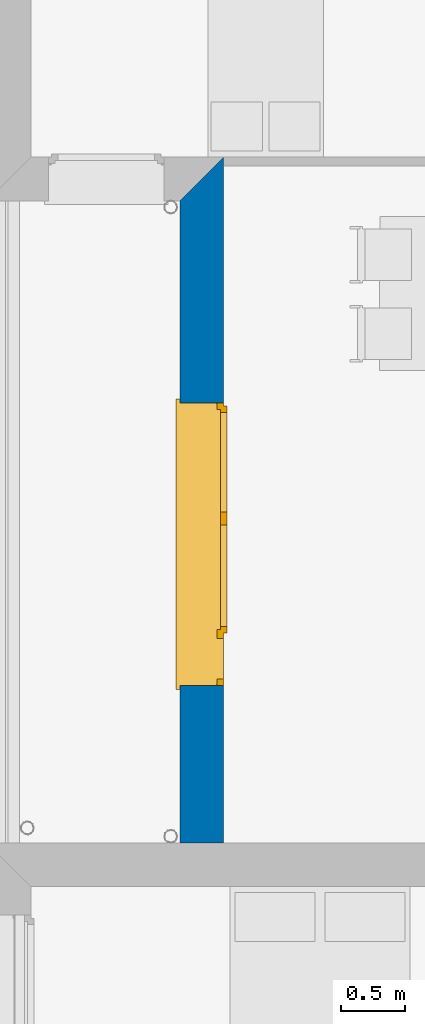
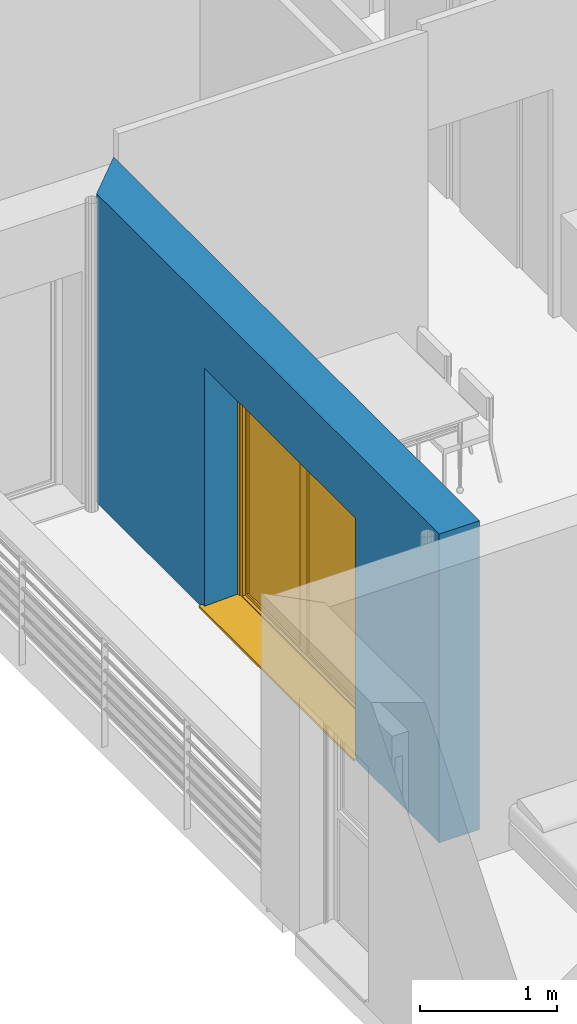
# One storey, part 35 of 171: 1 wall, 1 window, 1 opening.
"""IFC2X3 building model written with IfcOpenShell, lengths in millimetres."""

import ifcopenshell
import ifcopenshell.guid

model = None  # the IFC model being written
_history = None  # IfcOwnerHistory: only IFC2X3 demands one
_inside = {}  # id of a spatial element -> (the spatial element, [elements in it])
_under = {}  # id of a project, library or spatial element -> (it, [spatial elements below it])
_declared = {}  # id of a project -> (the project, [libraries it declares])
_typed = {}  # id of a type object -> (the type object, [elements of that type])
_made_of = {}  # id of a material, layer set ... -> (it, [elements and type objects made of it])


def new_model(schema):
    """Start an empty IFC model of exactly this schema.

    Asked for "IFC4X3", IfcOpenShell would pick the latest addendum, in which some entities
    have other attributes; the version numbers below select the first issue.
    IFC2X3 requires an IfcOwnerHistory on every rooted entity: one is made here for all.
    """
    global model, _history
    if schema == "IFC4X3":
        model = ifcopenshell.file(schema_version=(4, 3, 0, 0))
    else:
        model = ifcopenshell.file(schema=schema)
    _inside.clear()
    _under.clear()
    _declared.clear()
    _typed.clear()
    _made_of.clear()
    _history = None
    if model.schema == "IFC2X3":
        org = make("IfcOrganization", Name="unknown")
        user = make(
            "IfcPersonAndOrganization",
            ThePerson=make("IfcPerson", FamilyName="unknown"),
            TheOrganization=org,
        )
        app = make(
            "IfcApplication",
            ApplicationDeveloper=org,
            Version="unknown",
            ApplicationFullName="unknown",
            ApplicationIdentifier="unknown",
        )
        _history = make(
            "IfcOwnerHistory",
            OwningUser=user,
            OwningApplication=app,
            ChangeAction="ADDED",
            CreationDate=0,
        )
    return model


def make(cls, **values):
    """One entity of the class cls with the attributes given. An attribute that is None is left unset."""
    return model.create_entity(
        cls, **{name: value for name, value in values.items() if value is not None}
    )


def entity(cls, *values):
    """Any entity or typed value of the class cls, its attributes in the order of the schema. None: left unset."""
    e = model.create_entity(cls)
    for i, value in enumerate(values):
        if value is not None:
            e[i] = value
    return e


def rooted(cls, **values):
    """An entity with a GlobalId (a new one), such as an element, a storey or a relation."""
    return make(cls, GlobalId=ifcopenshell.guid.new(), OwnerHistory=_history, **values)


def si_unit(unit_type, name, prefix=None):
    """IfcSIUnit, for example si_unit("LENGTHUNIT", "METRE", prefix="MILLI")."""
    return make("IfcSIUnit", UnitType=unit_type, Prefix=prefix, Name=name)


def converted_unit(unit_type, name, factor, base, dimensions=None, offset=None):
    """IfcConversionBasedUnit, such as the inch: factor (a typed value) times the base unit."""
    return make(
        "IfcConversionBasedUnit"
        if offset is None
        else "IfcConversionBasedUnitWithOffset",
        ConversionOffset=offset,
        Dimensions=None
        if dimensions is None
        else entity("IfcDimensionalExponents", *dimensions),
        UnitType=unit_type,
        Name=name,
        ConversionFactor=make(
            "IfcMeasureWithUnit", ValueComponent=factor, UnitComponent=base
        ),
    )


def derived_unit(unit_type, elements):
    """IfcDerivedUnit: a product of units, each with its exponent."""
    return make(
        "IfcDerivedUnit",
        Elements=[
            make("IfcDerivedUnitElement", Unit=unit, Exponent=power)
            for unit, power in elements
        ],
        UnitType=unit_type,
    )


def money_unit(currency):
    """IfcMonetaryUnit."""
    return make("IfcMonetaryUnit", Currency=currency)


def assignment(units):
    """IfcUnitAssignment: the units of a project."""
    return None if units is None else make("IfcUnitAssignment", Units=units)


def point(xyz):
    """IfcCartesianPoint."""
    return None if xyz is None else make("IfcCartesianPoint", Coordinates=xyz)


def direction(xyz):
    """IfcDirection."""
    return None if xyz is None else make("IfcDirection", DirectionRatios=xyz)


def frame(location, z_axis=None, x_axis=None):
    """IfcAxis2Placement3D, a coordinate frame: its origin and axes. An axis left out is left unset."""
    return make(
        "IfcAxis2Placement3D",
        Location=point(location),
        Axis=direction(z_axis),
        RefDirection=direction(x_axis),
    )


def origin_with_axes():
    """The frame at (0, 0, 0) with the z axis (0, 0, 1) and the x axis (1, 0, 0) written out."""
    return frame((0.0, 0.0, 0.0), z_axis=(0.0, 0.0, 1.0), x_axis=(1.0, 0.0, 0.0))


def place(relative_to, where):
    """IfcLocalPlacement: puts the frame where relative to a parent placement (None: the world)."""
    return make(
        "IfcLocalPlacement", PlacementRelTo=relative_to, RelativePlacement=where
    )


def context(
    kind, dimensions, precision=None, world=None, true_north=None, identifier=None
):
    """IfcGeometricRepresentationContext, for example the 3D "Model" context."""
    return make(
        "IfcGeometricRepresentationContext",
        ContextIdentifier=identifier,
        ContextType=kind,
        CoordinateSpaceDimension=dimensions,
        Precision=precision,
        WorldCoordinateSystem=world,
        TrueNorth=true_north,
    )


def subcontext(parent, identifier, kind, view, scale=None):
    """IfcGeometricRepresentationSubContext, for example "Body" below "Model"."""
    return make(
        "IfcGeometricRepresentationSubContext",
        ContextIdentifier=identifier,
        ContextType=kind,
        ParentContext=parent,
        TargetScale=scale,
        TargetView=view,
    )


def project(units=None, contexts=None):
    """IfcProject with its units and contexts."""
    return rooted(
        "IfcProject",
        Name="project",
        RepresentationContexts=contexts,
        UnitsInContext=assignment(units),
    )


def spatial(cls, under=None, at=None, **own):
    """A site, building, storey or space (cls), placed at a placement, below another one or the project."""
    s = rooted(cls, ObjectPlacement=at, **own)
    if under is not None:
        _under.setdefault(under.id(), (under, []))[1].append(s)
    return s


def polyline(points):
    """IfcPolyline through the points."""
    return make("IfcPolyline", Points=[point(p) for p in points])


def outline(outer, holes=None, kind="AREA"):
    """IfcArbitraryClosedProfileDef: a profile drawn as a closed curve; with holes, ...WithVoids."""
    if holes is None:
        return make("IfcArbitraryClosedProfileDef", ProfileType=kind, OuterCurve=outer)
    return make(
        "IfcArbitraryProfileDefWithVoids",
        ProfileType=kind,
        OuterCurve=outer,
        InnerCurves=holes,
    )


def extrude(swept, where, along, depth):
    """IfcExtrudedAreaSolid: the profile swept, set in the frame where, extruded along a direction by depth."""
    return make(
        "IfcExtrudedAreaSolid",
        SweptArea=swept,
        Position=where,
        ExtrudedDirection=direction(along),
        Depth=depth,
    )


def faces_of(points, faces, orient=None, outer=None):
    """IfcFace entities. A face is a list of loops; a loop is a list of indices into points, from 0.

    orient and outer hold one flag for each loop. By default every Orientation is true, the
    first loop of a face is its IfcFaceOuterBound and the others are IfcFaceBound.
    """
    made = []
    for i, loops in enumerate(faces):
        bounds = []
        for j, loop in enumerate(loops):
            is_outer = j == 0 if outer is None else outer[i][j]
            bounds.append(
                make(
                    "IfcFaceOuterBound" if is_outer else "IfcFaceBound",
                    Bound=make("IfcPolyLoop", Polygon=[points[k] for k in loop]),
                    Orientation=True if orient is None else orient[i][j],
                )
            )
        made.append(make("IfcFace", Bounds=bounds))
    return made


def open_shell(faces, orient=None, outer=None):
    """The faces of one IfcOpenShell. surface_model builds it on its shared points."""
    return ("IfcOpenShell", faces, orient, outer)


def faceted_brep(points, faces, orient=None, outer=None, voids=None):
    """IfcFacetedBrep: a solid bounded by flat faces; with voids (closed shells), ...WithVoids."""
    shared = [point(p) for p in points]
    hull = make("IfcClosedShell", CfsFaces=faces_of(shared, faces, orient, outer))
    if voids is None:
        return make("IfcFacetedBrep", Outer=hull)
    return make(
        "IfcFacetedBrepWithVoids",
        Outer=hull,
        Voids=[
            make(cls, CfsFaces=faces_of(shared, fs, o, b)) for cls, fs, o, b in voids
        ],
    )


def surface_model(cls, points, shells):
    """IfcFaceBasedSurfaceModel or IfcShellBasedSurfaceModel (cls): surfaces that need not close."""
    shared = [point(p) for p in points]
    made = [make(c, CfsFaces=faces_of(shared, fs, o, b)) for c, fs, o, b in shells]
    if cls == "IfcFaceBasedSurfaceModel":
        return make(cls, FbsmFaces=made)
    return make(cls, SbsmBoundary=made)


def shape(context_of_items, identifier, shape_type, items):
    """IfcShapeRepresentation: the items that make up one representation, for example the "Body"."""
    return make(
        "IfcShapeRepresentation",
        ContextOfItems=context_of_items,
        RepresentationIdentifier=identifier,
        RepresentationType=shape_type,
        Items=items,
    )


def source(mapping_origin, context_of_items, identifier, shape_type, items):
    """IfcRepresentationMap: a shape defined once, which mapped items show again and again."""
    return make(
        "IfcRepresentationMap",
        MappingOrigin=mapping_origin,
        MappedRepresentation=shape(context_of_items, identifier, shape_type, items),
    )


def transform(
    local_origin,
    x_axis=None,
    y_axis=None,
    z_axis=None,
    scale=None,
    scale2=None,
    scale3=None,
    uniform=True,
):
    """IfcCartesianTransformationOperator3D, or its non-uniform kind. x_axis, y_axis, z_axis: its Axis1, 2, 3."""
    if uniform:
        return make(
            "IfcCartesianTransformationOperator3D",
            Axis1=direction(x_axis),
            Axis2=direction(y_axis),
            LocalOrigin=point(local_origin),
            Scale=scale,
            Axis3=direction(z_axis),
        )
    return make(
        "IfcCartesianTransformationOperator3DnonUniform",
        Axis1=direction(x_axis),
        Axis2=direction(y_axis),
        LocalOrigin=point(local_origin),
        Scale=scale,
        Axis3=direction(z_axis),
        Scale2=scale2,
        Scale3=scale3,
    )


def mapped(mapping_source, mapping_target):
    """IfcMappedItem: shows the shape of a source again, moved by a transform."""
    return make(
        "IfcMappedItem", MappingSource=mapping_source, MappingTarget=mapping_target
    )


def material(Name=None, Category=None):
    """IfcMaterial."""
    return make("IfcMaterial", Name=Name, Category=Category)


def layer(
    of_material, thickness, ventilated=None, Name=None, Category=None, Priority=None
):
    """IfcMaterialLayer: one layer of a wall or slab, of a material (None: an air gap)."""
    return make(
        "IfcMaterialLayer",
        Material=of_material,
        LayerThickness=thickness,
        IsVentilated=ventilated,
        Name=Name,
        Category=Category,
        Priority=Priority,
    )


def layer_set(layers, Name=None):
    """IfcMaterialLayerSet."""
    return make("IfcMaterialLayerSet", MaterialLayers=layers, LayerSetName=Name)


def layer_usage(for_layer_set, set_direction, sense, offset, extent=None):
    """IfcMaterialLayerSetUsage: how a layer set lies in its element."""
    return make(
        "IfcMaterialLayerSetUsage",
        ForLayerSet=for_layer_set,
        LayerSetDirection=set_direction,
        DirectionSense=sense,
        OffsetFromReferenceLine=offset,
        ReferenceExtent=extent,
    )


def made_of(thing, what):
    """Note that an element or type object is made of a material, layer set ...; save() writes the relation."""
    if what is not None:
        _made_of.setdefault(what.id(), (what, []))[1].append(thing)
    return thing


def type_object(cls, material=None, **own):
    """A type object (cls), such as IfcWallType, which elements share."""
    return made_of(rooted(cls, **own), material)


def element(
    cls,
    number,
    at=None,
    inside=None,
    cuts=None,
    type_object=None,
    material=None,
    context=None,
    identifier="Body",
    shape_type=None,
    held_by="IfcProductDefinitionShape",
    body=None,
    shapes=None,
    **own,
):
    """One element of the class cls, such as IfcWall. Its Tag is "e" and its number.

    at: its placement. inside: the storey or other place that contains it. cuts: it is an
    opening in that element (IfcRelVoidsElement). A single representation is given by context,
    identifier, shape_type and body (its items); several are given by shapes. held_by: the class
    of the entity that holds the representations. save() writes the other relations.
    """
    e = rooted(cls, Tag="e%d" % number, ObjectPlacement=at, **own)
    if body is not None:
        shapes = [shape(context, identifier, shape_type, body)]
    if shapes is not None:
        e.Representation = make(held_by, Representations=shapes)
    if inside is not None:
        _inside.setdefault(inside.id(), (inside, []))[1].append(e)
    if cuts is not None:
        rooted(
            "IfcRelVoidsElement", RelatingBuildingElement=cuts, RelatedOpeningElement=e
        )
    if type_object is not None:
        _typed.setdefault(type_object.id(), (type_object, []))[1].append(e)
    return made_of(e, material)


def fill(opening, filler):
    """IfcRelFillsElement: the door or window that sits in an opening."""
    return rooted(
        "IfcRelFillsElement",
        RelatingOpeningElement=opening,
        RelatedBuildingElement=filler,
    )


def aggregate(whole, parts):
    """IfcRelAggregates: a whole, such as a stair, and the parts it consists of."""
    return rooted("IfcRelAggregates", RelatingObject=whole, RelatedObjects=parts)


def save(model, path):
    """Write the relations noted so far, then the file.

    IfcRelAggregates (storeys below a building ...), IfcRelContainedInSpatialStructure (elements
    in a storey), IfcRelDefinesByType, IfcRelAssociatesMaterial and IfcRelDeclares: one each for
    every whole, place, type object, material and project.
    """
    for whole, parts in _under.values():
        aggregate(whole, parts)
    for where, things in _inside.values():
        rooted(
            "IfcRelContainedInSpatialStructure",
            RelatedElements=things,
            RelatingStructure=where,
        )
    for kind, things in _typed.values():
        rooted("IfcRelDefinesByType", RelatedObjects=things, RelatingType=kind)
    for what, things in _made_of.values():
        rooted("IfcRelAssociatesMaterial", RelatedObjects=things, RelatingMaterial=what)
    for by, libraries in _declared.values():
        rooted("IfcRelDeclares", RelatingContext=by, RelatedDefinitions=libraries)
    model.write(path)


model = new_model("IFC2X3")

# Units and contexts
model_context = context("Model", 3, precision=0.01, world=origin_with_axes(), true_north=direction((0.0, 1.0)))
body_context = subcontext(model_context, "Body", "Model", "MODEL_VIEW")
ifc_project = project(units=[si_unit("LENGTHUNIT", "METRE", prefix="MILLI"), si_unit("AREAUNIT", "SQUARE_METRE"), si_unit("VOLUMEUNIT", "CUBIC_METRE"), converted_unit("PLANEANGLEUNIT", "DEGREE", entity("IfcPlaneAngleMeasure", 0.0174532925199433), si_unit("PLANEANGLEUNIT", "RADIAN"), dimensions=[0, 0, 0, 0, 0, 0, 0]), money_unit("USD"), converted_unit("TIMEUNIT", "Year", entity("IfcTimeMeasure", 31557600.0), si_unit("TIMEUNIT", "SECOND"), dimensions=[0, 0, 1, 0, 0, 0, 0]), si_unit("MASSUNIT", "GRAM", prefix="KILO"), si_unit("THERMODYNAMICTEMPERATUREUNIT", "DEGREE_CELSIUS"), si_unit("LUMINOUSINTENSITYUNIT", "LUMEN"), si_unit("ENERGYUNIT", "JOULE", prefix="MEGA"), derived_unit("THERMALCONDUCTANCEUNIT", [(si_unit("POWERUNIT", "WATT"), 1), (si_unit("LENGTHUNIT", "METRE"), -1), (si_unit("THERMODYNAMICTEMPERATUREUNIT", "KELVIN"), -1)]), derived_unit("SPECIFICHEATCAPACITYUNIT", [(si_unit("ENERGYUNIT", "JOULE"), 1), (si_unit("MASSUNIT", "GRAM", prefix="KILO"), -1), (si_unit("THERMODYNAMICTEMPERATUREUNIT", "KELVIN"), -1)]), derived_unit("MASSDENSITYUNIT", [(si_unit("MASSUNIT", "GRAM", prefix="KILO"), 1), (si_unit("VOLUMEUNIT", "CUBIC_METRE"), -1)])], contexts=[model_context])

# Site, building, storey
site_placement = place(None, origin_with_axes())
site = spatial("IfcSite", under=ifc_project, at=site_placement, Name="Site", CompositionType="ELEMENT")
building_placement = place(site_placement, origin_with_axes())
building = spatial("IfcBuilding", under=site, at=building_placement, Name="Bâtiment", CompositionType="ELEMENT")
storey_placement = place(building_placement, frame((0.0, 0.0, 3000.0), z_axis=(0.0, 0.0, 1.0), x_axis=(1.0, 0.0, 0.0)))
storey = spatial("IfcBuildingStorey", under=building, at=storey_placement, Name="rdc", CompositionType="ELEMENT", Elevation=3000.0)

# Wall, opening, window
ifc_material_1 = material(Name="Parpaing 312445824")
ifc_layer_1 = layer(ifc_material_1, 180.0, ventilated="UNKNOWN")
ifc_material_2 = material(Name="Isolant styromousse 301821074")
ifc_layer_2 = layer(ifc_material_2, 160.0, ventilated="UNKNOWN")
ifc_layer_set = layer_set([ifc_layer_1, ifc_layer_2], Name="isol int 18+16 0018356637")
ifc_layer_usage = layer_usage(ifc_layer_set, "AXIS2", "POSITIVE", 0.0)
wall_type = type_object("IfcWallType", Name="isol int 18+16 0018356637 340", PredefinedType="NOTDEFINED")
wall_placement = place(storey_placement, frame((2218134.318432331, -639016.8076992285, 0.0), z_axis=(0.0, 0.0, 1.0), x_axis=(-1.454543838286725e-05, -0.9999999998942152, 0.0)))
wall = element("IfcWallStandardCase", 1, at=wall_placement, inside=storey, type_object=wall_type, material=ifc_layer_usage, Name="Mur-143", context=body_context, shape_type="SweptSolid", body=[
    extrude(outline(polyline([(0.0, 0.0), (4999.568805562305, 0.0), (4999.563855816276, 339.9999999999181), (-340.0049454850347, 340.0000000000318), (0.0, 0.0)])), origin_with_axes(), (0.0, 0.0, 1.0), 2750.0),
])
opening_placement = place(wall_placement, frame((2673.994690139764, 0.0, 0.0), z_axis=(0.0, 0.0, 1.0), x_axis=(1.0, 0.0, 0.0)))
opening = element("IfcOpeningElement", 2, at=opening_placement, cuts=wall, Name="Fen-133", context=body_context, shape_type="Brep", body=[
    faceted_brep([(-1100.000000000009, 289.9999999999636, 2150.0), (-1100.000000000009, 341.0727209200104, 2150.0), (-1100.000000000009, 341.0727209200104, 0.0), (-1100.000000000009, 289.9999999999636, 0.0), (-1100.000000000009, 279.9999999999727, 2150.0), (-1100.000000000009, 279.9999999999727, 2400.0), (-1100.000000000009, 530.0000000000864, 2400.0), (-1100.000000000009, 530.0000000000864, 2150.0), (1099.99999999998, 341.0727209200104, 2150.0), (1099.99999999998, 341.0727209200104, 0.0), (1099.99999999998, 290.0000000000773, 0.0), (1099.999999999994, -1.072720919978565, 0.0), (-1099.999999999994, -1.072720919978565, 0.0), (-1099.999999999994, -1.072720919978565, 2150.0), (1099.999999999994, 279.9999999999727, 2150.0), (1099.999999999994, 279.9999999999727, 2400.0), (1099.999999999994, 529.9999999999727, 2400.0), (1099.999999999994, 529.9999999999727, 2150.0), (1099.99999999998, 290.0000000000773, 2150.0), (1099.999999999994, -1.072720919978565, 2150.0)], [[[0, 1, 2, 3]], [[1, 0, 4, 5, 6, 7]], [[1, 8, 9, 2]], [[10, 11, 12, 3, 2, 9]], [[4, 0, 3, 12, 13]], [[4, 14, 15, 5]], [[15, 16, 6, 5]], [[16, 17, 7, 6]], [[8, 1, 7, 17]], [[8, 18, 10, 9]], [[18, 14, 19, 11, 10]], [[13, 12, 11, 19]], [[14, 4, 13, 19]], [[18, 8, 17, 16, 15, 14]]]),
])
window_style = type_object("IfcWindowStyle", Name="Fenêtre châssis double variable 27", ConstructionType="NOTDEFINED", OperationType="TRIPLE_PANEL_VERTICAL", ParameterTakesPrecedence=False, Sizeable=False)
shared_shape = source(origin_with_axes(), body_context, "Body", "SurfaceModel", [
    surface_model("IfcShellBasedSurfaceModel", [(1100.0, -51.0, 40.00000000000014), (1100.0, -51.0, 50.00000000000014), (-1100.0, -51.0, 50.0), (-1100.0, -51.0, 40.0), (1130.0, -369.9999999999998, 28.96551724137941), (1130.0, -339.9999999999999, 30.00324289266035), (1100.0, -339.9999999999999, 30.00324289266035), (-1100.0, -339.9999999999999, 30.00324289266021), (-1130.0, -339.9999999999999, 30.00324289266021), (-1130.0, -369.9999999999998, 28.96551724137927), (1130.0, -369.9999999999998, 8.965517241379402), (-1130.0, -369.9999999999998, 8.965517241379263), (1130.0, -359.9999999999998, 18.9655172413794), (-1130.0, -359.9999999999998, 18.96551724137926)], [open_shell([[[0, 1, 2, 3]], [[4, 5, 6, 0, 3, 7, 8, 9]], [[10, 4, 9, 11]], [[12, 10, 11, 13]]])]),
    faceted_brep([(-1100.0, -60.0, 2400.0), (-1097.0, -60.0, 2400.0), (-1097.0, 189.9999999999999, 2400.0), (-1100.0, 189.9999999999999, 2400.0), (-1100.0, -60.0, 2150.0), (-1097.0, -60.0, 2150.0), (-1097.0, 189.9999999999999, 2150.0), (-1100.0, 189.9999999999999, 2150.0)], [[[0, 1, 2, 3]], [[4, 5, 1, 0]], [[1, 5, 6, 2]], [[3, 2, 6, 7]], [[0, 3, 7, 4]], [[7, 6, 5, 4]]]),
    faceted_brep([(1097.0, -59.99999999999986, 2400.0), (1100.0, -59.99999999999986, 2400.0), (1100.0, 190.0000000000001, 2400.0), (1097.0, 190.0000000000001, 2400.0), (1097.0, -59.99999999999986, 2150.0), (1100.0, -59.99999999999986, 2150.0), (1100.0, 190.0000000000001, 2150.0), (1097.0, 190.0000000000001, 2150.0)], [[[0, 1, 2, 3]], [[4, 5, 1, 0]], [[1, 5, 6, 2]], [[3, 2, 6, 7]], [[0, 3, 7, 4]], [[7, 6, 5, 4]]]),
    faceted_brep([(-1097.0, -59.99999999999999, 2150.0), (1097.0, -59.99999999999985, 2150.0), (1097.0, -59.99999999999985, 2400.0), (-1097.0, -59.99999999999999, 2400.0), (-1097.0, -56.99999999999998, 2150.0), (1097.0, -56.99999999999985, 2150.0), (1097.0, -56.99999999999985, 2397.0), (1097.0, 187.0000000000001, 2397.0), (1097.0, 187.0000000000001, 2153.0), (1097.0, -37.99999999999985, 2153.0), (1097.0, -37.99999999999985, 2150.0), (1097.0, 190.0000000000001, 2150.0), (1097.0, 190.0000000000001, 2400.0), (-1097.0, 189.9999999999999, 2400.0), (-1097.0, 189.9999999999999, 2150.0), (-1097.0, -37.99999999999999, 2150.0), (-1097.0, -37.99999999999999, 2153.0), (-1097.0, 187.0, 2153.0), (-1097.0, 187.0, 2397.0), (-1097.0, -56.99999999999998, 2397.0)], [[[0, 1, 2, 3]], [[4, 5, 1, 0]], [[1, 5, 6, 7, 8, 9, 10, 11, 12, 2]], [[3, 2, 12, 13]], [[0, 3, 13, 14, 15, 16, 17, 18, 19, 4]], [[19, 6, 5, 4]], [[18, 7, 6, 19]], [[17, 8, 7, 18]], [[16, 9, 8, 17]], [[15, 10, 9, 16]], [[14, 11, 10, 15]], [[13, 12, 11, 14]]]),
    faceted_brep([(-1094.0, -40.37442957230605, 2256.419644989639), (-1094.0, -41.99999999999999, 2275.0), (-1094.0, -40.37442957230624, 2293.580355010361), (-1094.0, -35.54711042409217, 2311.596155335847), (-1094.0, -27.66471820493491, 2328.5), (-1094.0, -16.96675541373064, 2343.77827423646), (-1094.0, -3.778274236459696, 2356.96675541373), (-1094.0, 11.5, 2367.664718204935), (-1094.0, 28.40384466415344, 2375.547110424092), (-1094.0, 46.41964498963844, 2380.374429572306), (-1094.0, 64.99999999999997, 2382.0), (-1094.0, 83.58035501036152, 2380.374429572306), (-1094.0, 101.5961553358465, 2375.547110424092), (-1094.0, 118.4999999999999, 2367.664718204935), (-1094.0, 133.7782742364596, 2356.96675541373), (-1094.0, 146.9667554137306, 2343.77827423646), (-1094.0, 157.6647182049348, 2328.5), (-1094.0, 165.5471104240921, 2311.596155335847), (-1094.0, 170.3744295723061, 2293.580355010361), (-1094.0, 171.9999999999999, 2275.0), (-1094.0, 170.3744295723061, 2256.419644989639), (-1094.0, 165.5471104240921, 2238.403844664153), (-1094.0, 157.6647182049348, 2221.5), (-1094.0, 146.9667554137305, 2206.22172576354), (-1094.0, 133.7782742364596, 2193.033244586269), (-1094.0, 118.4999999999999, 2182.335281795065), (-1094.0, 101.5961553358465, 2174.452889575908), (-1094.0, 83.58035501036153, 2169.625570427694), (-1094.0, 65.0, 2168.0), (-1094.0, 46.41964498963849, 2169.625570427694), (-1094.0, 28.40384466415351, 2174.452889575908), (-1094.0, 11.5000000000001, 2182.335281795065), (-1094.0, -3.778274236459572, 2193.033244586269), (-1094.0, -16.96675541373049, 2206.22172576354), (-1094.0, -27.66471820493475, 2221.5), (-1094.0, -35.54711042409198, 2238.403844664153), (1094.0, -40.37442957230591, 2256.419644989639), (1094.0, -41.99999999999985, 2275.0), (1094.0, -40.3744295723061, 2293.580355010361), (1094.0, -35.54711042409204, 2311.596155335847), (1094.0, -27.66471820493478, 2328.5), (1094.0, -16.9667554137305, 2343.77827423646), (1094.0, -3.778274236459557, 2356.96675541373), (1094.0, 11.50000000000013, 2367.664718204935), (1094.0, 28.40384466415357, 2375.547110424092), (1094.0, 46.41964498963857, 2380.374429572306), (1094.0, 65.00000000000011, 2382.0), (1094.0, 83.58035501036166, 2380.374429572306), (1094.0, 101.5961553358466, 2375.547110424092), (1094.0, 118.5000000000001, 2367.664718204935), (1094.0, 133.7782742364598, 2356.96675541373), (1094.0, 146.9667554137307, 2343.77827423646), (1094.0, 157.664718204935, 2328.5), (1094.0, 165.5471104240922, 2311.596155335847), (1094.0, 170.3744295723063, 2293.580355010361), (1094.0, 172.0, 2275.0), (1094.0, 170.3744295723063, 2256.419644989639), (1094.0, 165.5471104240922, 2238.403844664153), (1094.0, 157.6647182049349, 2221.5), (1094.0, 146.9667554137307, 2206.22172576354), (1094.0, 133.7782742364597, 2193.033244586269), (1094.0, 118.5000000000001, 2182.335281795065), (1094.0, 101.5961553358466, 2174.452889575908), (1094.0, 83.58035501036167, 2169.625570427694), (1094.0, 65.00000000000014, 2168.0), (1094.0, 46.41964498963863, 2169.625570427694), (1094.0, 28.40384466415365, 2174.452889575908), (1094.0, 11.50000000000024, 2182.335281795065), (1094.0, -3.778274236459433, 2193.033244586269), (1094.0, -16.96675541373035, 2206.22172576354), (1094.0, -27.66471820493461, 2221.5), (1094.0, -35.54711042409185, 2238.403844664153)], [[[0, 1, 2, 3, 4, 5, 6, 7, 8, 9, 10, 11, 12, 13, 14, 15, 16, 17, 18, 19, 20, 21, 22, 23, 24, 25, 26, 27, 28, 29, 30, 31, 32, 33, 34, 35]], [[0, 36, 37, 1]], [[1, 37, 38, 2]], [[2, 38, 39, 3]], [[3, 39, 40, 4]], [[4, 40, 41, 5]], [[5, 41, 42, 6]], [[6, 42, 43, 7]], [[7, 43, 44, 8]], [[8, 44, 45, 9]], [[9, 45, 46, 10]], [[10, 46, 47, 11]], [[11, 47, 48, 12]], [[12, 48, 49, 13]], [[13, 49, 50, 14]], [[14, 50, 51, 15]], [[15, 51, 52, 16]], [[16, 52, 53, 17]], [[17, 53, 54, 18]], [[18, 54, 55, 19]], [[19, 55, 56, 20]], [[20, 56, 57, 21]], [[21, 57, 58, 22]], [[22, 58, 59, 23]], [[23, 59, 60, 24]], [[24, 60, 61, 25]], [[25, 61, 62, 26]], [[26, 62, 63, 27]], [[27, 63, 64, 28]], [[28, 64, 65, 29]], [[29, 65, 66, 30]], [[30, 66, 67, 31]], [[31, 67, 68, 32]], [[32, 68, 69, 33]], [[33, 69, 70, 34]], [[34, 70, 71, 35]], [[35, 71, 36, 0]], [[36, 71, 70, 69, 68, 67, 66, 65, 64, 63, 62, 61, 60, 59, 58, 57, 56, 55, 54, 53, 52, 51, 50, 49, 48, 47, 46, 45, 44, 43, 42, 41, 40, 39, 38, 37]]]),
    faceted_brep([(1100.0, -34.99999999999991, 30.0), (1100.0, -34.99999999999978, 2150.0), (1100.0, -59.99999999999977, 2150.0), (1100.0, -59.99999999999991, 30.0), (1075.0, -34.99999999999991, 30.0), (1075.0, -34.99999999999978, 2150.0), (1075.0, -37.99999999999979, 2150.0), (1097.0, -37.99999999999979, 2150.0), (1097.0, -56.99999999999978, 2150.0), (1075.0, -56.99999999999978, 2150.0), (1075.0, -59.99999999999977, 2150.0), (1075.0, -59.99999999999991, 30.0), (1075.0, -56.99999999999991, 30.0), (1097.0, -56.99999999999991, 30.0), (1097.0, -37.99999999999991, 30.0), (1075.0, -37.99999999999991, 30.0)], [[[0, 1, 2, 3]], [[4, 5, 1, 0]], [[1, 5, 6, 7, 8, 9, 10, 2]], [[3, 2, 10, 11]], [[0, 3, 11, 12, 13, 14, 15, 4]], [[15, 6, 5, 4]], [[14, 7, 6, 15]], [[13, 8, 7, 14]], [[12, 9, 8, 13]], [[11, 10, 9, 12]]]),
    faceted_brep([(-1100.0, -34.99999999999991, 30.0), (-1100.0, -59.99999999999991, 30.0), (-1100.0, -59.99999999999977, 2150.0), (-1100.0, -34.99999999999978, 2150.0), (-1075.0, -34.99999999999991, 30.0), (-1075.0, -37.99999999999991, 30.0), (-1097.0, -37.99999999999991, 30.0), (-1097.0, -56.99999999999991, 30.0), (-1075.0, -56.99999999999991, 30.0), (-1075.0, -59.99999999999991, 30.0), (-1075.0, -59.99999999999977, 2150.0), (-1075.0, -56.99999999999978, 2150.0), (-1097.0, -56.99999999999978, 2150.0), (-1097.0, -37.99999999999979, 2150.0), (-1075.0, -37.99999999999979, 2150.0), (-1075.0, -34.99999999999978, 2150.0)], [[[0, 1, 2, 3]], [[0, 4, 5, 6, 7, 8, 9, 1]], [[1, 9, 10, 2]], [[3, 2, 10, 11, 12, 13, 14, 15]], [[4, 0, 3, 15]], [[5, 4, 15, 14]], [[6, 5, 14, 13]], [[7, 6, 13, 12]], [[8, 7, 12, 11]], [[9, 8, 11, 10]]]),
    faceted_brep([(1097.0, -46.6666666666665, 2275.0), (1097.0, -46.6666666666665, 2266.666666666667), (-1097.0, -46.66666666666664, 2266.666666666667), (-1097.0, -46.66666666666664, 2275.0), (1097.0, -51.66666666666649, 2275.0), (1097.0, -51.66666666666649, 2266.666666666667), (1097.0, -49.99999999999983, 2250.0), (1097.0, -44.99999999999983, 2250.0), (-1097.0, -44.99999999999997, 2250.0), (-1097.0, -49.99999999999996, 2250.0), (-1097.0, -51.66666666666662, 2266.666666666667), (-1097.0, -51.66666666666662, 2275.0)], [[[0, 1, 2, 3]], [[4, 5, 6, 7, 1, 0]], [[2, 1, 7, 8]], [[3, 2, 8, 9, 10, 11]], [[3, 11, 4, 0]], [[10, 5, 4, 11]], [[9, 6, 5, 10]], [[8, 7, 6, 9]]]),
    faceted_brep([(-1097.0, -44.99999999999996, 2250.0), (1097.0, -44.99999999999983, 2250.0), (1097.0, -46.6666666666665, 2233.333333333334), (-1097.0, -46.66666666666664, 2233.333333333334), (-1097.0, -49.99999999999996, 2250.0), (1097.0, -49.99999999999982, 2250.0), (1097.0, -51.66666666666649, 2233.333333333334), (1097.0, -51.66666666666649, 2216.666666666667), (1097.0, -49.99999999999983, 2200.0), (1097.0, -44.99999999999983, 2200.0), (1097.0, -46.6666666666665, 2216.666666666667), (-1097.0, -46.66666666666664, 2216.666666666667), (-1097.0, -44.99999999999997, 2200.0), (-1097.0, -49.99999999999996, 2200.0), (-1097.0, -51.66666666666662, 2216.666666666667), (-1097.0, -51.66666666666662, 2233.333333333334)], [[[0, 1, 2, 3]], [[4, 5, 1, 0]], [[1, 5, 6, 7, 8, 9, 10, 2]], [[3, 2, 10, 11]], [[0, 3, 11, 12, 13, 14, 15, 4]], [[15, 6, 5, 4]], [[14, 7, 6, 15]], [[13, 8, 7, 14]], [[12, 9, 8, 13]], [[11, 10, 9, 12]]]),
    faceted_brep([(-1097.0, -44.99999999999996, 2200.0), (1097.0, -44.99999999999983, 2200.0), (1097.0, -46.6666666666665, 2183.333333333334), (-1097.0, -46.66666666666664, 2183.333333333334), (-1097.0, -49.99999999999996, 2200.0), (1097.0, -49.99999999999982, 2200.0), (1097.0, -51.66666666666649, 2183.333333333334), (1097.0, -51.66666666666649, 2166.666666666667), (1097.0, -49.99999999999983, 2150.000000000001), (1097.0, -44.99999999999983, 2150.000000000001), (1097.0, -46.6666666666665, 2166.666666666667), (-1097.0, -46.66666666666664, 2166.666666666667), (-1097.0, -44.99999999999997, 2150.000000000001), (-1097.0, -49.99999999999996, 2150.000000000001), (-1097.0, -51.66666666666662, 2166.666666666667), (-1097.0, -51.66666666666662, 2183.333333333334)], [[[0, 1, 2, 3]], [[4, 5, 1, 0]], [[1, 5, 6, 7, 8, 9, 10, 2]], [[3, 2, 10, 11]], [[0, 3, 11, 12, 13, 14, 15, 4]], [[15, 6, 5, 4]], [[14, 7, 6, 15]], [[13, 8, 7, 14]], [[12, 9, 8, 13]], [[11, 10, 9, 12]]]),
    faceted_brep([(-1075.0, 0.0, 2100.0), (-1100.0, 0.0, 2100.0), (-1100.0, -50.00000000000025, 2100.0), (-1050.0, -50.00000000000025, 2100.0), (-1050.0, -25.00000000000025, 2100.0), (-1075.0, -25.00000000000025, 2100.0), (-1075.0, 0.0, 50.00000000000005), (-1100.0, 0.0, 50.00000000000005), (-1100.0, -49.99999999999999, 50.00000000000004), (-1050.0, -49.99999999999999, 50.00000000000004), (-1050.0, -25.0, 50.00000000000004), (-1075.0, -25.0, 50.00000000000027)], [[[0, 1, 2, 3, 4, 5]], [[6, 7, 1, 0]], [[1, 7, 8, 2]], [[2, 8, 9, 3]], [[4, 3, 9, 10]], [[10, 11, 5, 4]], [[5, 11, 6, 0]], [[11, 10, 9, 8, 7, 6]]]),
    faceted_brep([(664.9999999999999, -25.00000000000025, 2100.0), (664.9999999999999, -50.00000000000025, 2100.0), (735.0, -50.00000000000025, 2100.0), (735.0, 0.0, 2100.0), (690.0, 0.0, 2100.0), (690.0, -25.00000000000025, 2100.0), (664.9999999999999, -25.0, 50.00000000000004), (664.9999999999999, -49.99999999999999, 50.00000000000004), (735.0, -49.99999999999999, 50.00000000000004), (735.0, 0.0, 50.00000000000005), (690.0, 0.0, 50.00000000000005), (690.0, -25.0, 50.00000000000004)], [[[0, 1, 2, 3, 4, 5]], [[6, 7, 1, 0]], [[8, 2, 1, 7]], [[9, 3, 2, 8]], [[4, 3, 9, 10]], [[10, 11, 5, 4]], [[5, 11, 6, 0]], [[11, 10, 9, 8, 7, 6]]]),
    faceted_brep([(664.9999999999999, -25.0, 50.00000000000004), (664.9999999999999, -49.99999999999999, 50.00000000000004), (735.0, -49.99999999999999, 50.00000000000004), (735.0, 0.0, 50.00000000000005), (690.0, 0.0, 50.00000000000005), (690.0, -25.0, 50.00000000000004), (-1050.0, -25.0, 50.00000000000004), (-1050.0, -49.99999999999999, 50.00000000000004), (-1100.0, -49.99999999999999, 50.00000000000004), (-1100.0, -49.99999999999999, 0.0), (1100.0, -49.99999999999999, 0.0), (1100.0, -49.99999999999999, 50.00000000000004), (1050.0, -49.99999999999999, 50.00000000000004), (1050.0, 0.0, 50.00000000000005), (-1075.0, 0.0, 24.99999999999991), (690.0, 0.0, 24.99999999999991), (1100.0, 0.0, 50.00000000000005), (1100.0, 0.0, 0.0), (-1100.0, 0.0, 0.0), (-1100.0, 0.0, 50.00000000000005), (-1075.0, 0.0, 50.00000000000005), (690.0, -25.0, 24.99999999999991), (-1075.0, -25.0, 24.99999999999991), (-1075.0, -25.0, 50.00000000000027)], [[[0, 1, 2, 3, 4, 5]], [[6, 7, 1, 0]], [[8, 9, 10, 11, 12, 2, 1, 7]], [[13, 3, 2, 12]], [[14, 15, 4, 3, 13, 16, 17, 18, 19, 20]], [[15, 21, 5, 4]], [[5, 21, 22, 23, 6, 0]], [[23, 20, 19, 8, 7, 6]], [[19, 18, 9, 8]], [[18, 17, 10, 9]], [[17, 16, 11, 10]], [[16, 13, 12, 11]], [[14, 22, 21, 15]], [[23, 22, 14, 20]]]),
    faceted_brep([(-1075.0, 0.0, 2100.0), (-1100.0, 0.0, 2100.0), (-1100.0, 0.0, 2150.0), (1100.0, 0.0, 2150.0), (1100.0, 0.0, 2100.0), (1050.0, 0.0, 2100.0), (735.0, 0.0, 2100.0), (690.0, 0.0, 2100.0), (690.0, 0.0, 2125.0), (-1075.0, 0.0, 2125.0), (-1075.0, -25.00000000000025, 2100.0), (-1050.0, -25.00000000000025, 2100.0), (-1050.0, -50.00000000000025, 2100.0), (-1100.0, -50.00000000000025, 2100.0), (-1100.0, -50.00000000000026, 2150.0), (1100.0, -50.00000000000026, 2150.0), (1100.0, -50.00000000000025, 2100.0), (1050.0, -50.00000000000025, 2100.0), (735.0, -50.00000000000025, 2100.0), (690.0, -25.00000000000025, 2100.0), (664.9999999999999, -50.00000000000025, 2100.0), (664.9999999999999, -25.00000000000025, 2100.0), (690.0, -25.00000000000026, 2125.0), (-1075.0, -25.00000000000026, 2125.0)], [[[0, 1, 2, 3, 4, 5, 6, 7, 8, 9]], [[10, 11, 12, 13, 1, 0]], [[2, 1, 13, 14]], [[3, 2, 14, 15]], [[4, 3, 15, 16]], [[5, 4, 16, 17]], [[6, 5, 17, 18]], [[19, 7, 6, 18, 20, 21]], [[7, 19, 22, 8]], [[8, 22, 23, 9]], [[9, 23, 10, 0]], [[21, 11, 10, 23, 22, 19]], [[21, 20, 12, 11]], [[18, 17, 16, 15, 14, 13, 12, 20]]]),
    faceted_brep([(1050.0, -49.99999999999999, 50.0), (1050.0, 0.0, 50.00000000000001), (1100.0, 0.0, 50.00000000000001), (1100.0, -49.99999999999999, 50.0), (1050.0, -50.00000000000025, 2100.0), (1050.0, 0.0, 2100.0), (1100.0, 0.0, 2100.0), (1100.0, -50.00000000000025, 2100.0)], [[[0, 1, 2, 3]], [[4, 5, 1, 0]], [[1, 5, 6, 2]], [[3, 2, 6, 7]], [[0, 3, 7, 4]], [[7, 6, 5, 4]]]),
    faceted_brep([(-1025.0, -25.00000000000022, 2075.0), (-1025.0, 24.99999999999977, 2075.0), (-1075.0, 24.99999999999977, 2075.0), (-1075.0, -25.00000000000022, 2075.0), (-1025.0, -24.99999999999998, 75.00000000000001), (-1025.0, 25.00000000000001, 75.00000000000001), (-1075.0, 25.00000000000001, 75.00000000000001), (-1075.0, -24.99999999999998, 75.00000000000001)], [[[0, 1, 2, 3]], [[4, 5, 1, 0]], [[1, 5, 6, 2]], [[3, 2, 6, 7]], [[0, 3, 7, 4]], [[7, 6, 5, 4]]]),
    faceted_brep([(-249.9999999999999, -25.00000000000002, 75.00000000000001), (-249.9999999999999, 24.99999999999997, 75.00000000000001), (-199.9999999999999, 24.99999999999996, 75.00000000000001), (-199.9999999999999, -25.00000000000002, 75.00000000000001), (-249.9999999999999, -25.00000000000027, 2075.0), (-249.9999999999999, 24.99999999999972, 2075.0), (-199.9999999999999, 24.99999999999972, 2075.0), (-199.9999999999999, -25.00000000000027, 2075.0)], [[[0, 1, 2, 3]], [[4, 5, 1, 0]], [[1, 5, 6, 2]], [[3, 2, 6, 7]], [[0, 3, 7, 4]], [[7, 6, 5, 4]]]),
    faceted_brep([(-199.9999999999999, -25.00000000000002, 25.0), (-199.9999999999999, 24.99999999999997, 25.00000000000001), (-199.9999999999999, 24.99999999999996, 75.00000000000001), (-199.9999999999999, -25.00000000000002, 75.00000000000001), (-1075.0, -24.99999999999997, 25.0), (-1075.0, 25.00000000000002, 25.00000000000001), (-1075.0, 25.00000000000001, 75.00000000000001), (-1025.0, 25.00000000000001, 75.00000000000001), (-249.9999999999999, 24.99999999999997, 75.00000000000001), (-249.9999999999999, -25.00000000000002, 75.00000000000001), (-1025.0, -24.99999999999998, 75.00000000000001), (-1075.0, -24.99999999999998, 75.00000000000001)], [[[0, 1, 2, 3]], [[4, 5, 1, 0]], [[1, 5, 6, 7, 8, 2]], [[3, 2, 8, 9]], [[0, 3, 9, 10, 11, 4]], [[11, 6, 5, 4]], [[10, 7, 6, 11]], [[9, 8, 7, 10]]]),
    faceted_brep([(-1075.0, -25.00000000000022, 2125.0), (-1075.0, 24.99999999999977, 2125.0), (-1075.0, 24.99999999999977, 2075.0), (-1075.0, -25.00000000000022, 2075.0), (-199.9999999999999, -25.00000000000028, 2125.0), (-199.9999999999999, 24.99999999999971, 2125.0), (-199.9999999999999, 24.99999999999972, 2075.0), (-249.9999999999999, 24.99999999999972, 2075.0), (-1025.0, 24.99999999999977, 2075.0), (-1025.0, -25.00000000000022, 2075.0), (-249.9999999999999, -25.00000000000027, 2075.0), (-199.9999999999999, -25.00000000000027, 2075.0)], [[[0, 1, 2, 3]], [[4, 5, 1, 0]], [[1, 5, 6, 7, 8, 2]], [[3, 2, 8, 9]], [[0, 3, 9, 10, 11, 4]], [[11, 6, 5, 4]], [[10, 7, 6, 11]], [[9, 8, 7, 10]]]),
    surface_model("IfcShellBasedSurfaceModel", [(-1025.0, -10.00000000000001, 75.00000000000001), (-249.9999999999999, -10.00000000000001, 75.00000000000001), (-249.9999999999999, -10.00000000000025, 2075.0), (-1025.0, -10.00000000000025, 2075.0)], [open_shell([[[0, 1, 2, 3]]])]),
    surface_model("IfcShellBasedSurfaceModel", [(-1025.0, 9.999999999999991, 75.00000000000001), (-1025.0, 9.99999999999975, 2075.0), (-249.9999999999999, 9.99999999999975, 2075.0), (-249.9999999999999, 9.999999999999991, 75.00000000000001)], [open_shell([[[0, 1, 2, 3]]])]),
    faceted_brep([(-149.9999999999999, -25.00000000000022, 2075.0), (-149.9999999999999, 24.99999999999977, 2075.0), (-199.9999999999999, 24.99999999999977, 2075.0), (-199.9999999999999, -25.00000000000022, 2075.0), (-149.9999999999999, -24.99999999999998, 75.00000000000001), (-149.9999999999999, 25.00000000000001, 75.00000000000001), (-199.9999999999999, 25.00000000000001, 75.00000000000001), (-199.9999999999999, -24.99999999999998, 75.00000000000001)], [[[0, 1, 2, 3]], [[4, 5, 1, 0]], [[1, 5, 6, 2]], [[3, 2, 6, 7]], [[0, 3, 7, 4]], [[7, 6, 5, 4]]]),
    faceted_brep([(640.0, -25.00000000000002, 75.00000000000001), (640.0, 24.99999999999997, 75.00000000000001), (690.0, 24.99999999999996, 75.00000000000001), (690.0, -25.00000000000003, 75.00000000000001), (640.0, -25.00000000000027, 2075.0), (640.0, 24.99999999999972, 2075.0), (690.0, 24.99999999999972, 2075.0), (690.0, -25.00000000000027, 2075.0)], [[[0, 1, 2, 3]], [[4, 5, 1, 0]], [[1, 5, 6, 2]], [[3, 2, 6, 7]], [[0, 3, 7, 4]], [[7, 6, 5, 4]]]),
    faceted_brep([(690.0, -25.00000000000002, 25.0), (690.0, 24.99999999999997, 25.00000000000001), (690.0, 24.99999999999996, 75.00000000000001), (690.0, -25.00000000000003, 75.00000000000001), (-199.9999999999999, -24.99999999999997, 25.0), (-199.9999999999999, 25.00000000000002, 25.00000000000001), (-199.9999999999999, 25.00000000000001, 75.00000000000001), (-149.9999999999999, 25.00000000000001, 75.00000000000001), (640.0, 24.99999999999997, 75.00000000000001), (640.0, -25.00000000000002, 75.00000000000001), (-149.9999999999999, -24.99999999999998, 75.00000000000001), (-199.9999999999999, -24.99999999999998, 75.00000000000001)], [[[0, 1, 2, 3]], [[4, 5, 1, 0]], [[1, 5, 6, 7, 8, 2]], [[3, 2, 8, 9]], [[0, 3, 9, 10, 11, 4]], [[11, 6, 5, 4]], [[10, 7, 6, 11]], [[9, 8, 7, 10]]]),
    faceted_brep([(-199.9999999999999, -25.00000000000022, 2125.0), (-199.9999999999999, 24.99999999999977, 2125.0), (-199.9999999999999, 24.99999999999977, 2075.0), (-199.9999999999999, -25.00000000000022, 2075.0), (690.0, -25.00000000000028, 2125.0), (690.0, 24.99999999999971, 2125.0), (690.0, 24.99999999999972, 2075.0), (640.0, 24.99999999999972, 2075.0), (-149.9999999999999, 24.99999999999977, 2075.0), (-149.9999999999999, -25.00000000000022, 2075.0), (640.0, -25.00000000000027, 2075.0), (690.0, -25.00000000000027, 2075.0)], [[[0, 1, 2, 3]], [[4, 5, 1, 0]], [[1, 5, 6, 7, 8, 2]], [[3, 2, 8, 9]], [[0, 3, 9, 10, 11, 4]], [[11, 6, 5, 4]], [[10, 7, 6, 11]], [[9, 8, 7, 10]]]),
    surface_model("IfcShellBasedSurfaceModel", [(-149.9999999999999, -10.00000000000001, 75.00000000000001), (640.0, -10.00000000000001, 75.00000000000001), (640.0, -10.00000000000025, 2075.0), (-149.9999999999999, -10.00000000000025, 2075.0)], [open_shell([[[0, 1, 2, 3]]])]),
    surface_model("IfcShellBasedSurfaceModel", [(-149.9999999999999, 9.999999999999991, 75.00000000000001), (-149.9999999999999, 9.99999999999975, 2075.0), (640.0, 9.99999999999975, 2075.0), (640.0, 9.999999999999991, 75.00000000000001)], [open_shell([[[0, 1, 2, 3]]])]),
    surface_model("IfcShellBasedSurfaceModel", [(735.0, -34.99999999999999, 49.99999999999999), (1050.0, -34.99999999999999, 49.99999999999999), (1050.0, -35.00000000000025, 2100.0), (735.0, -35.00000000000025, 2100.0)], [open_shell([[[0, 1, 2, 3]]])]),
    surface_model("IfcShellBasedSurfaceModel", [(735.0, -15.0, 49.99999999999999), (735.0, -15.00000000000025, 2100.0), (1050.0, -15.00000000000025, 2100.0), (1050.0, -15.0, 49.99999999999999)], [open_shell([[[0, 1, 2, 3]]])]),
])
window_placement = place(opening_placement, frame((-1099.999999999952, 0.0, 0.0), z_axis=(0.0, 0.0, 1.0), x_axis=(1.0, 0.0, 0.0)))
window = element("IfcWindow", 3, at=window_placement, inside=storey, type_object=window_style, Name="Fen-133", OverallHeight=2150.0, OverallWidth=2200.0, context=body_context, shape_type="MappedRepresentation", body=[
    mapped(shared_shape, transform((1100.000000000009, 340.0000000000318, 0.0))),
])
fill(opening, window)

save(model, "model.ifc")
